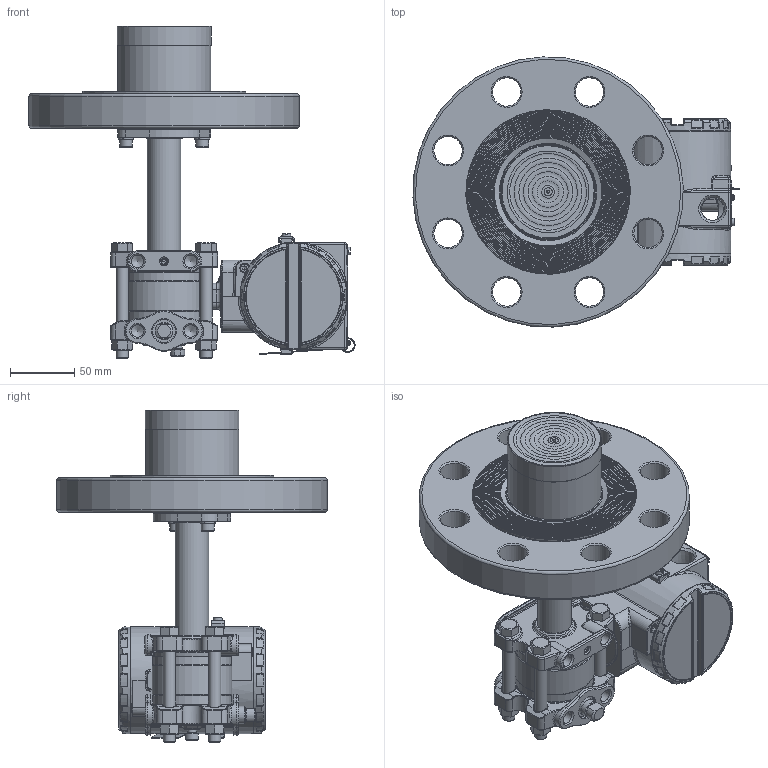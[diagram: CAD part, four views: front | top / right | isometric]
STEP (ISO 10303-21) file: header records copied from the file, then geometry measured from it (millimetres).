
FILE_DESCRIPTION(/* description */ (''),/* implementation_level */ '2;1');
FILE_NAME(/* name */ 'F:\Area\Desenvolvimento_2\Projects\Sensor\projetos\LD30X\montagens 3d - clientes\SELO NIVEL\LD30XL 3-300 RF ext 50 ref 1-4NPT purga acima.stp',/* time_stamp */ '2023-02-10T16:49:25-03:00',/* author */ ('inventor02'),/* organization */ (''),/* preprocessor_version */ 'ST-DEVELOPER v17',/* originating_system */ 'Autodesk Inventor 2019',/* authorisation */ '');
FILE_SCHEMA (('CONFIG_CONTROL_DESIGN'));
Products named in the file (41): LD30XL 3-300 RF ext 50 ref 1-4NPT purga acima; 204-0301-L-3 300 RF ext 50 purga acima; nivel fx3 com baixa diferencial 1-4NPT purga acima; involucro fx0-3 apos a usinagem final; flange diferencial std purga; 101-C-7484-01 flange selo nivel VR; 201-A-0504-tubo união teste 1; bujao 1-4NPT; Sangria; Porca 3-8 x 16 UNC; Paraf. 3-8 x 16 UNC; adaptação tubo x flanges 1-1-2 a 4pol; 101-B-0161-anel cortado do tubo - teste1; 101-B-0162-flange fixação tubo; ANSI B18.3.1M - M6x1 x 16; DIN 127 - A 6; flange 3 300 ext 50; 101-C-0120-13; 096-B-0199-14; 101-B-7701-02 ext 3-50; carcaça vazia com tampas e plaqueta; carcaça LD inox sem letras; Subconjunto plaqueta 300; Plaqueta transmissor; Parafuso da Plaqueta; Rebite da Plaqueta; 096-A-0169-03; 101-A-0502-01; Chapa aterramento externo; ISO 1207 - M4 x 8; DIN 915 - M6 x 10; ANSI B18.3.1M - M4x0,7 x 8; Subconjunto tampa com visor aluminio; tampa pintada; VIDRO DO VISOR; oring 41x1 vidro tampa; Trava do vidro da tampa com visor; trava do vidro VH256; Subconjunto tampa sem visor-aluminio; tampa cega 300 pintada p0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
Assembly tree (51 placements, depth 4):
  LD30XL 3-300 RF ext 50 ref 1-4NPT purga acima
    204-0301-L-3 300 RF ext 50 purga acima
      nivel fx3 com baixa diferencial 1-4NPT purga acima
        involucro fx0-3 apos a usinagem final
        flange diferencial std purga
        101-C-7484-01 flange selo nivel VR
        201-A-0504-tubo união teste 1
        DIN 915 - M6 x 10
        bujao 1-4NPT
        Sangria
        Porca 3-8 x 16 UNC  x4
        Paraf. 3-8 x 16 UNC  x4
      adaptação tubo x flanges 1-1-2 a 4pol
        101-B-0161-anel cortado do tubo - teste1
        101-B-0162-flange fixação tubo
        ANSI B18.3.1M - M6x1 x 16  x2
        DIN 127 - A 6  x2
      flange 3 300 ext 50
        101-C-0120-13
        096-B-0199-14
        101-B-7701-02 ext 3-50
    carcaça vazia com tampas e plaqueta
      carcaça LD inox sem letras
      Subconjunto plaqueta 300
        Plaqueta transmissor
        Parafuso da Plaqueta
        Rebite da Plaqueta
        096-A-0169-03
        101-A-0502-01
      Chapa aterramento externo
      ISO 1207 - M4 x 8
      DIN 915 - M6 x 10
      ANSI B18.3.1M - M4x0,7 x 8  x2
      Subconjunto tampa com visor aluminio
        tampa pintada
        VIDRO DO VISOR
        oring 41x1 vidro tampa
        Trava do vidro da tampa com visor
        trava do vidro VH256
        00034775-0
      Subconjunto tampa sem visor-aluminio
        tampa cega 300 pintada p0
        00034775-0
Bounding box: 253.19 x 209.8 x 257.8 mm (x, y, z)
Volume: 1553816.1 mm3; surface area: 381952.6 mm2
Topology: 43 solids, 43 shells, 2774 faces, 6631 edges, 3931 vertices
Faces by surface type: bspline 667, cylinder 660, plane 578, torus 487, cone 256, sphere 126
Full cylindrical faces by diameter (mm): 2 x4, 2.1 x2, 2.459 x5, 2.5 x1, 2.642 x1, 2.7 x1, 2.8 x1, 3 x4, 3.242 x4, 3.5 x5, 3.571 x1, 4 x5, 4.3 x1, 4.4 x1, 4.917 x4, 5 x1, 5.5 x3, 6 x6, 6.647 x1, 7 x7, 7.087 x2, 7.6 x2, 7.798 x4, 8 x1, 8.7 x2, 9.525 x4, 9.728 x6, 10 x2, 10.5 x8, 10.719 x2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
Entity records: 95612 total; most frequent: CARTESIAN_POINT 34811, DIRECTION 12575, ORIENTED_EDGE 12442, EDGE_CURVE 6221, AXIS2_PLACEMENT_3D 5560, VERTEX_POINT 3737, CIRCLE 3297, EDGE_LOOP 2840
